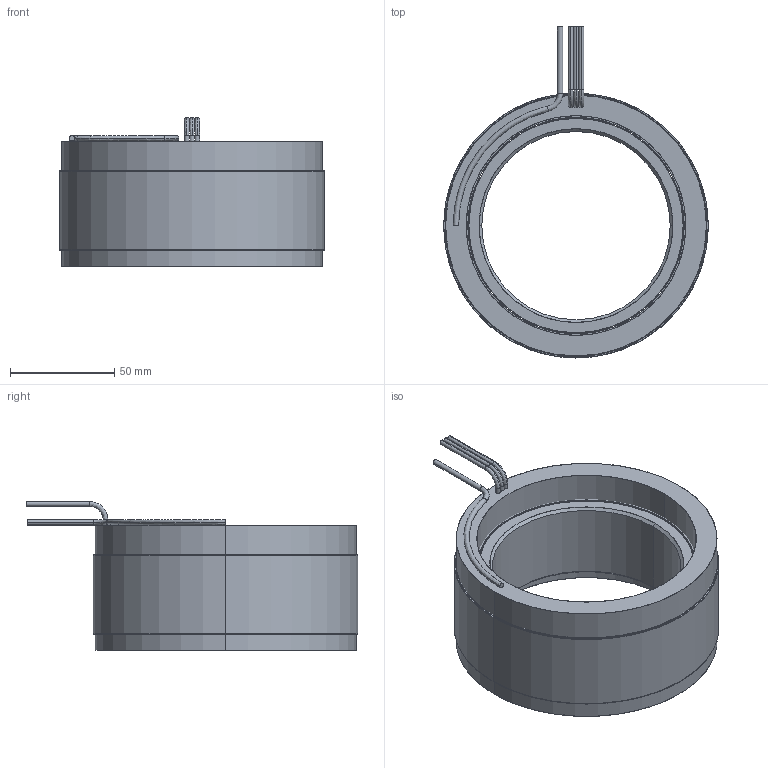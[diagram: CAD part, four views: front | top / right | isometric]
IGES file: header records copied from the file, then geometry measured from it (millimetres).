
Start section: SolidWorks IGES file using analytic representation for surfaces
Global section: file name: \\fs01.aveox.local\user documents\eng\My Documents\6100396-XX STATOR AND ROTOR SET, UT-5000-32P3, SENSORLESS\6100396-05.IGS; native system: SolidWorks 2016; preprocessor: SolidWorks 2016; author: eng; date: 201215.101037; units: inch
Bounding box: 127 x 159.26 x 71.5 mm (x, y, z)
Surface area: 148128.7 mm2 (no closed solid volume)
Topology: 0 solids, 0 shells, 75 faces, 2236 edges, 2236 vertices
Faces by surface type: revolution 46, bspline 29
